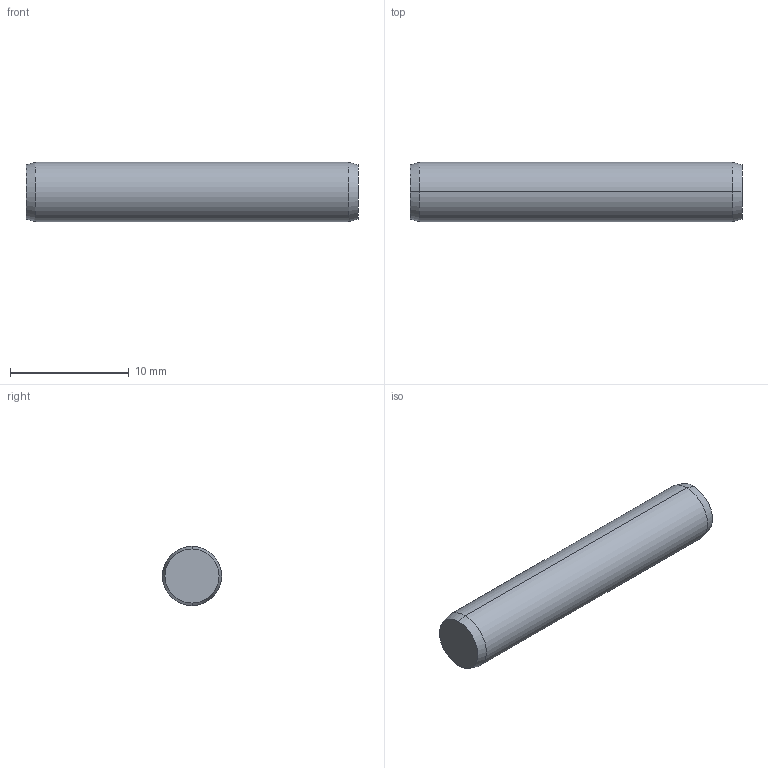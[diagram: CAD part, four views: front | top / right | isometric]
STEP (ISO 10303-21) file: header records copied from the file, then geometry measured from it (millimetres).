
FILE_DESCRIPTION (( 'STEP AP203' ), '1' );
FILE_NAME ('P1206.050-028.step', '2017-06-14T08:16:22', ( 'User' ), ( '' ), 'SwSTEP 2.0', 'SolidWorks 2009', '' );
FILE_SCHEMA (( 'CONFIG_CONTROL_DESIGN' ));
Length unit declared in the file: millimetre
Products named in the file (1): P1206.050-028
Bounding box: 28 x 5 x 5 mm (x, y, z)
Volume: 547.2 mm3; surface area: 472.4 mm2
Topology: 1 solids, 1 shells, 8 faces, 14 edges, 8 vertices
Faces by surface type: cone 4, cylinder 2, plane 2
Entity records: 271 total; most frequent: DIRECTION 40, CARTESIAN_POINT 31, ORIENTED_EDGE 28, AXIS2_PLACEMENT_3D 17, EDGE_CURVE 14, PERSON_AND_ORGANIZATION 8, FACE_OUTER_BOUND 8, CIRCLE 8
